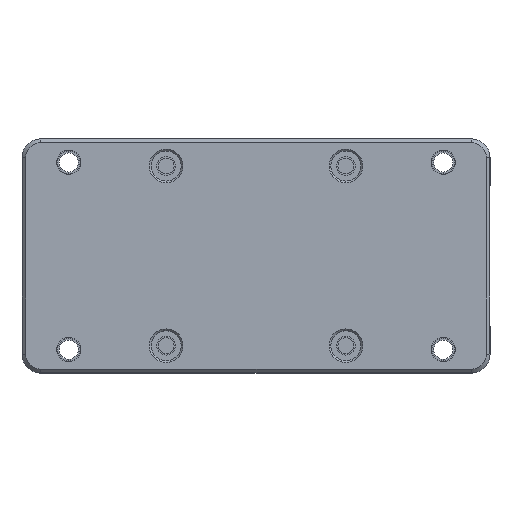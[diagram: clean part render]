
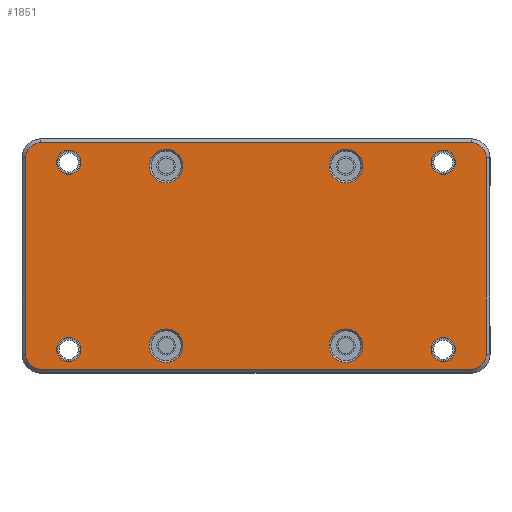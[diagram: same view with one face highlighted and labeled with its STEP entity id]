
A CAD part, top view. The second image highlights one B-rep face of the part: STEP entity #1851.
In plain terms, the highlighted planar face has unit normal (0, 0, 1).
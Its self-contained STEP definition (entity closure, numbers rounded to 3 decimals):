
#2=CARTESIAN_POINT('',(-100.,50.,32.5));
#3=DIRECTION('',(0.,0.,1.));
#4=DIRECTION('',(1.,0.,0.));
#5=AXIS2_PLACEMENT_3D('',#2,#3,#4);
#7=CARTESIAN_POINT('',(-100.,50.,32.5));
#8=DIRECTION('',(0.,0.,1.));
#9=DIRECTION('',(-1.,0.,0.));
#10=AXIS2_PLACEMENT_3D('',#7,#8,#9);
#12=CARTESIAN_POINT('',(-100.,-50.,32.5));
#13=DIRECTION('',(0.,0.,-1.));
#14=DIRECTION('',(1.,0.,0.));
#15=AXIS2_PLACEMENT_3D('',#12,#13,#14);
#17=CARTESIAN_POINT('',(-100.,-50.,32.5));
#18=DIRECTION('',(0.,0.,-1.));
#19=DIRECTION('',(-1.,0.,0.));
#20=AXIS2_PLACEMENT_3D('',#17,#18,#19);
#22=CARTESIAN_POINT('',(100.,50.,32.5));
#23=DIRECTION('',(0.,0.,-1.));
#24=DIRECTION('',(-1.,0.,0.));
#25=AXIS2_PLACEMENT_3D('',#22,#23,#24);
#27=CARTESIAN_POINT('',(100.,50.,32.5));
#28=DIRECTION('',(0.,0.,-1.));
#29=DIRECTION('',(1.,0.,0.));
#30=AXIS2_PLACEMENT_3D('',#27,#28,#29);
#32=CARTESIAN_POINT('',(100.,-50.,32.5));
#33=DIRECTION('',(0.,0.,1.));
#34=DIRECTION('',(-1.,0.,0.));
#35=AXIS2_PLACEMENT_3D('',#32,#33,#34);
#37=CARTESIAN_POINT('',(100.,-50.,32.5));
#38=DIRECTION('',(0.,0.,1.));
#39=DIRECTION('',(1.,0.,0.));
#40=AXIS2_PLACEMENT_3D('',#37,#38,#39);
#42=CARTESIAN_POINT('',(-115.,52.5,32.5));
#43=DIRECTION('',(0.,0.,1.));
#44=DIRECTION('',(0.,1.,0.));
#45=AXIS2_PLACEMENT_3D('',#42,#43,#44);
#47=DIRECTION('',(-1.,0.,0.));
#48=VECTOR('',#47,230.);
#49=CARTESIAN_POINT('',(115.,60.5,32.5));
#50=LINE('',#49,#48);
#51=CARTESIAN_POINT('',(115.,52.5,32.5));
#52=DIRECTION('',(0.,0.,1.));
#53=DIRECTION('',(1.,0.,0.));
#54=AXIS2_PLACEMENT_3D('',#51,#52,#53);
#56=DIRECTION('',(0.,1.,0.));
#57=VECTOR('',#56,105.);
#58=CARTESIAN_POINT('',(123.,-52.5,32.5));
#59=LINE('',#58,#57);
#60=CARTESIAN_POINT('',(115.,-52.5,32.5));
#61=DIRECTION('',(0.,0.,1.));
#62=DIRECTION('',(0.,-1.,0.));
#63=AXIS2_PLACEMENT_3D('',#60,#61,#62);
#65=DIRECTION('',(1.,0.,0.));
#66=VECTOR('',#65,230.);
#67=CARTESIAN_POINT('',(-115.,-60.5,32.5));
#68=LINE('',#67,#66);
#69=CARTESIAN_POINT('',(-115.,-52.5,32.5));
#70=DIRECTION('',(0.,0.,1.));
#71=DIRECTION('',(-1.,0.,0.));
#72=AXIS2_PLACEMENT_3D('',#69,#70,#71);
#74=DIRECTION('',(0.,-1.,0.));
#75=VECTOR('',#74,105.);
#76=CARTESIAN_POINT('',(-123.,52.5,32.5));
#77=LINE('',#76,#75);
#78=CARTESIAN_POINT('',(48.,-48.,32.5));
#79=DIRECTION('',(0.,0.,-1.));
#80=DIRECTION('',(-1.,0.,0.));
#81=AXIS2_PLACEMENT_3D('',#78,#79,#80);
#83=CARTESIAN_POINT('',(48.,-48.,32.5));
#84=DIRECTION('',(0.,0.,-1.));
#85=DIRECTION('',(1.,0.,0.));
#86=AXIS2_PLACEMENT_3D('',#83,#84,#85);
#88=CARTESIAN_POINT('',(-48.,-48.,32.5));
#89=DIRECTION('',(0.,0.,-1.));
#90=DIRECTION('',(-1.,0.,0.));
#91=AXIS2_PLACEMENT_3D('',#88,#89,#90);
#93=CARTESIAN_POINT('',(-48.,-48.,32.5));
#94=DIRECTION('',(0.,0.,-1.));
#95=DIRECTION('',(1.,0.,0.));
#96=AXIS2_PLACEMENT_3D('',#93,#94,#95);
#98=CARTESIAN_POINT('',(-48.,48.,32.5));
#99=DIRECTION('',(0.,0.,-1.));
#100=DIRECTION('',(-1.,0.,0.));
#101=AXIS2_PLACEMENT_3D('',#98,#99,#100);
#103=CARTESIAN_POINT('',(-48.,48.,32.5));
#104=DIRECTION('',(0.,0.,-1.));
#105=DIRECTION('',(1.,0.,0.));
#106=AXIS2_PLACEMENT_3D('',#103,#104,#105);
#108=CARTESIAN_POINT('',(48.,48.,32.5));
#109=DIRECTION('',(0.,0.,-1.));
#110=DIRECTION('',(-1.,0.,0.));
#111=AXIS2_PLACEMENT_3D('',#108,#109,#110);
#113=CARTESIAN_POINT('',(48.,48.,32.5));
#114=DIRECTION('',(0.,0.,-1.));
#115=DIRECTION('',(1.,0.,0.));
#116=AXIS2_PLACEMENT_3D('',#113,#114,#115);
#1524=CARTESIAN_POINT('',(-93.5,50.,32.5));
#1525=CARTESIAN_POINT('',(-106.5,50.,32.5));
#1526=VERTEX_POINT('',#1524);
#1527=VERTEX_POINT('',#1525);
#1533=CARTESIAN_POINT('',(-93.5,-50.,32.5));
#1535=VERTEX_POINT('',#1533);
#1537=CARTESIAN_POINT('',(-106.5,-50.,32.5));
#1539=VERTEX_POINT('',#1537);
#1541=CARTESIAN_POINT('',(93.5,50.,32.5));
#1543=VERTEX_POINT('',#1541);
#1545=CARTESIAN_POINT('',(106.5,50.,32.5));
#1547=VERTEX_POINT('',#1545);
#1549=CARTESIAN_POINT('',(93.5,-50.,32.5));
#1551=VERTEX_POINT('',#1549);
#1553=CARTESIAN_POINT('',(106.5,-50.,32.5));
#1555=VERTEX_POINT('',#1553);
#1588=CARTESIAN_POINT('',(-115.,60.5,32.5));
#1589=CARTESIAN_POINT('',(-123.,52.5,32.5));
#1590=VERTEX_POINT('',#1588);
#1591=VERTEX_POINT('',#1589);
#1596=CARTESIAN_POINT('',(-123.,-52.5,
32.5));
#1597=VERTEX_POINT('',#1596);
#1600=CARTESIAN_POINT('',(-115.,-60.5,32.5));
#1601=VERTEX_POINT('',#1600);
#1604=CARTESIAN_POINT('',(115.,-60.5,32.5));
#1605=VERTEX_POINT('',#1604);
#1608=CARTESIAN_POINT('',(123.,-52.5,32.5));
#1609=VERTEX_POINT('',#1608);
#1612=CARTESIAN_POINT('',(123.,52.5,32.5));
#1613=VERTEX_POINT('',#1612);
#1616=CARTESIAN_POINT('',(115.,60.5,32.5));
#1617=VERTEX_POINT('',#1616);
#1748=CARTESIAN_POINT('',(39.,-48.,32.5));
#1749=CARTESIAN_POINT('',(57.,-48.,32.5));
#1750=VERTEX_POINT('',#1748);
#1751=VERTEX_POINT('',#1749);
#1756=CARTESIAN_POINT('',(-57.,-48.,32.5));
#1757=CARTESIAN_POINT('',(-39.,-48.,32.5));
#1758=VERTEX_POINT('',#1756);
#1759=VERTEX_POINT('',#1757);
#1764=CARTESIAN_POINT('',(-57.,48.,32.5));
#1765=CARTESIAN_POINT('',(-39.,48.,32.5));
#1766=VERTEX_POINT('',#1764);
#1767=VERTEX_POINT('',#1765);
#1772=CARTESIAN_POINT('',(39.,48.,32.5));
#1773=CARTESIAN_POINT('',(57.,48.,32.5));
#1774=VERTEX_POINT('',#1772);
#1775=VERTEX_POINT('',#1773);
#1780=CARTESIAN_POINT('',(0.,0.,32.5));
#1781=DIRECTION('',(0.,0.,1.));
#1782=DIRECTION('',(1.,0.,0.));
#1783=AXIS2_PLACEMENT_3D('',#1780,#1781,#1782);
#1784=PLANE('',#1783);
#1786=ORIENTED_EDGE('',*,*,#1785,.F.);
#1788=ORIENTED_EDGE('',*,*,#1787,.F.);
#1790=ORIENTED_EDGE('',*,*,#1789,.F.);
#1792=ORIENTED_EDGE('',*,*,#1791,.F.);
#1794=ORIENTED_EDGE('',*,*,#1793,.F.);
#1796=ORIENTED_EDGE('',*,*,#1795,.F.);
#1798=ORIENTED_EDGE('',*,*,#1797,.F.);
#1800=ORIENTED_EDGE('',*,*,#1799,.F.);
#1801=EDGE_LOOP('',(#1786,#1788,#1790,#1792,#1794,#1796,#1798,#1800));
#1802=FACE_OUTER_BOUND('',#1801,.F.);
#1804=ORIENTED_EDGE('',*,*,#1803,.F.);
#1806=ORIENTED_EDGE('',*,*,#1805,.F.);
#1807=EDGE_LOOP('',(#1804,#1806));
#1808=FACE_BOUND('',#1807,.F.);
#1810=ORIENTED_EDGE('',*,*,#1809,.F.);
#1812=ORIENTED_EDGE('',*,*,#1811,.F.);
#1813=EDGE_LOOP('',(#1810,#1812));
#1814=FACE_BOUND('',#1813,.F.);
#1816=ORIENTED_EDGE('',*,*,#1815,.T.);
#1818=ORIENTED_EDGE('',*,*,#1817,.T.);
#1819=EDGE_LOOP('',(#1816,#1818));
#1820=FACE_BOUND('',#1819,.F.);
#1822=ORIENTED_EDGE('',*,*,#1821,.T.);
#1824=ORIENTED_EDGE('',*,*,#1823,.T.);
#1825=EDGE_LOOP('',(#1822,#1824));
#1826=FACE_BOUND('',#1825,.F.);
#1828=ORIENTED_EDGE('',*,*,#1827,.F.);
#1830=ORIENTED_EDGE('',*,*,#1829,.F.);
#1831=EDGE_LOOP('',(#1828,#1830));
#1832=FACE_BOUND('',#1831,.F.);
#1834=ORIENTED_EDGE('',*,*,#1833,.F.);
#1836=ORIENTED_EDGE('',*,*,#1835,.F.);
#1837=EDGE_LOOP('',(#1834,#1836));
#1838=FACE_BOUND('',#1837,.F.);
#1840=ORIENTED_EDGE('',*,*,#1839,.F.);
#1842=ORIENTED_EDGE('',*,*,#1841,.F.);
#1843=EDGE_LOOP('',(#1840,#1842));
#1844=FACE_BOUND('',#1843,.F.);
#1846=ORIENTED_EDGE('',*,*,#1845,.F.);
#1848=ORIENTED_EDGE('',*,*,#1847,.F.);
#1849=EDGE_LOOP('',(#1846,#1848));
#1850=FACE_BOUND('',#1849,.F.);
#1851=ADVANCED_FACE('',(#1802,#1808,#1814,#1820,#1826,#1832,#1838,#1844,#1850),
#1784,.T.);
#6=CIRCLE('',#5,6.5);
#11=CIRCLE('',#10,6.5);
#16=CIRCLE('',#15,6.5);
#21=CIRCLE('',#20,6.5);
#26=CIRCLE('',#25,6.5);
#31=CIRCLE('',#30,6.5);
#36=CIRCLE('',#35,6.5);
#41=CIRCLE('',#40,6.5);
#46=CIRCLE('',#45,8.);
#55=CIRCLE('',#54,8.);
#64=CIRCLE('',#63,8.);
#73=CIRCLE('',#72,8.);
#82=CIRCLE('',#81,9.);
#87=CIRCLE('',#86,9.);
#92=CIRCLE('',#91,9.);
#97=CIRCLE('',#96,9.);
#102=CIRCLE('',#101,9.);
#107=CIRCLE('',#106,9.);
#112=CIRCLE('',#111,9.);
#117=CIRCLE('',#116,9.);
#1785=EDGE_CURVE('',#1590,#1591,#46,.T.);
#1787=EDGE_CURVE('',#1617,#1590,#50,.T.);
#1789=EDGE_CURVE('',#1613,#1617,#55,.T.);
#1791=EDGE_CURVE('',#1609,#1613,#59,.T.);
#1793=EDGE_CURVE('',#1605,#1609,#64,.T.);
#1795=EDGE_CURVE('',#1601,#1605,#68,.T.);
#1797=EDGE_CURVE('',#1597,#1601,#73,.T.);
#1799=EDGE_CURVE('',#1591,#1597,#77,.T.);
#1803=EDGE_CURVE('',#1535,#1539,#16,.T.);
#1805=EDGE_CURVE('',#1539,#1535,#21,.T.);
#1809=EDGE_CURVE('',#1543,#1547,#26,.T.);
#1811=EDGE_CURVE('',#1547,#1543,#31,.T.);
#1815=EDGE_CURVE('',#1551,#1555,#36,.T.);
#1817=EDGE_CURVE('',#1555,#1551,#41,.T.);
#1821=EDGE_CURVE('',#1526,#1527,#6,.T.);
#1823=EDGE_CURVE('',#1527,#1526,#11,.T.);
#1827=EDGE_CURVE('',#1750,#1751,#82,.T.);
#1829=EDGE_CURVE('',#1751,#1750,#87,.T.);
#1833=EDGE_CURVE('',#1758,#1759,#92,.T.);
#1835=EDGE_CURVE('',#1759,#1758,#97,.T.);
#1839=EDGE_CURVE('',#1766,#1767,#102,.T.);
#1841=EDGE_CURVE('',#1767,#1766,#107,.T.);
#1845=EDGE_CURVE('',#1774,#1775,#112,.T.);
#1847=EDGE_CURVE('',#1775,#1774,#117,.T.);
